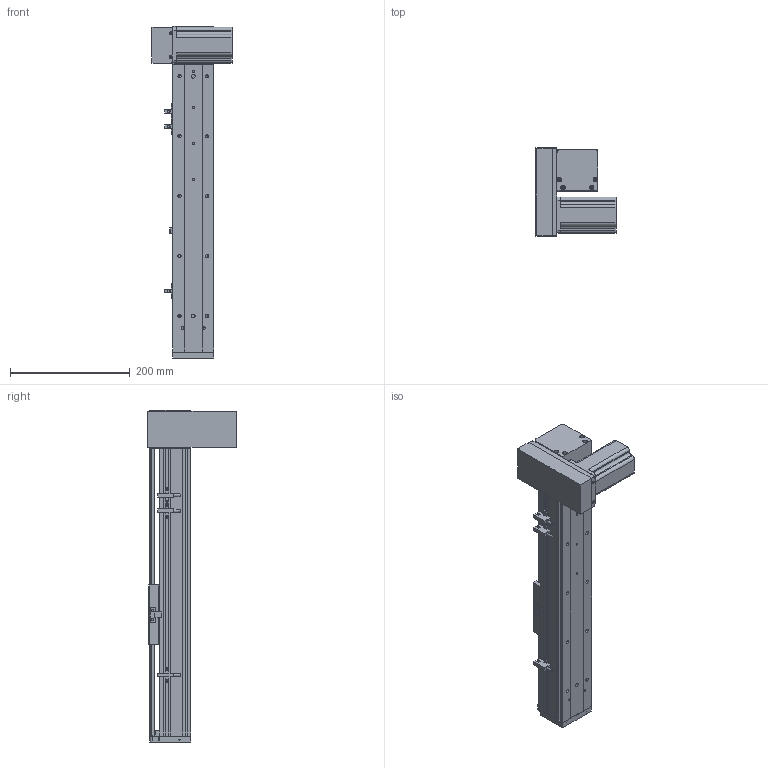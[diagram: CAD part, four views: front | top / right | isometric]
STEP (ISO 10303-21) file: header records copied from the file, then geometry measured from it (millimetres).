
FILE_DESCRIPTION (( 'STEP AP203' ), '1' );
FILE_NAME ('ML68-S300-DR.STEP', '2016-08-05T00:43:47', ( '' ), ( '' ), 'SwSTEP 2.0', 'SolidWorks 2014', '' );
FILE_SCHEMA (( 'CONFIG_CONTROL_DESIGN' ));
Length unit declared in the file: millimetre
Products named in the file (12): ML68滅鳥啣盓傅輸; 換覜ん; 60換覜結え; ML68傷啣; 三协电机MH201N2_預設; ML68雄赽釱; 葩璃 ML68菁釱^ML68-S300-DR; ML68奻裔^ML68-S300-DR; ML68-BL傷啣; QS68左右折电机板罩子; ML68-S300-DR; QS68酘衵殏萇儂啣
Assembly tree (13 placements, depth 2):
  ML68-S300-DR
    葩璃 ML68菁釱^ML68-S300-DR
    ML68奻裔^ML68-S300-DR
    ML68傷啣
    ML68-BL傷啣
    60換覜結え
    換覜ん  x3
    三协电机MH201N2_預設
    ML68雄赽釱
    QS68酘衵殏萇儂啣
    QS68左右折电机板罩子
    ML68滅鳥啣盓傅輸
Bounding box: 133.5 x 148 x 554 mm (x, y, z)
Volume: 1318292.7 mm3; surface area: 453869.9 mm2
Topology: 13 solids, 13 shells, 869 faces, 2376 edges, 1505 vertices
Faces by surface type: cylinder 392, plane 381, cone 96
Entity records: 27324 total; most frequent: CARTESIAN_POINT 5090, DIRECTION 4494, ORIENTED_EDGE 4252, EDGE_CURVE 2126, AXIS2_PLACEMENT_3D 1617, VERTEX_POINT 1393, LINE 1260, VECTOR 1260
